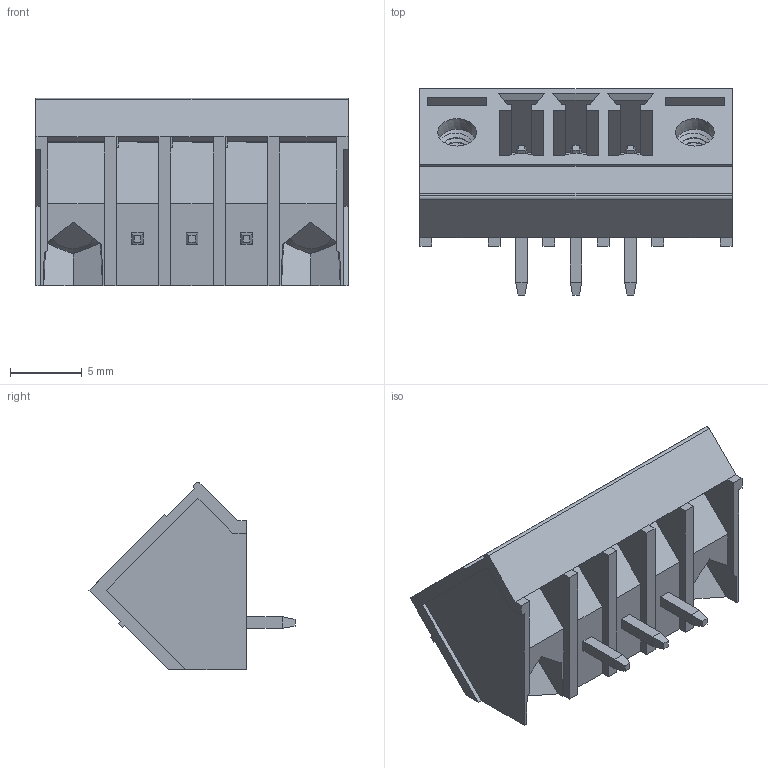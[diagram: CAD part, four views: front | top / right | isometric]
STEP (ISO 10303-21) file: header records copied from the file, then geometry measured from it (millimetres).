
FILE_DESCRIPTION((''),'2;1');
FILE_NAME('3PIN_SW0001','2019-05-10T',('zhenbing.lai'),(''),'CREO PARAMETRIC BY PTC INC, 2016260','CREO PARAMETRIC BY PTC INC, 2016260','');
FILE_SCHEMA(('CONFIG_CONTROL_DESIGN'));
Length unit declared in the file: millimetre
Products named in the file (1): 3PIN_SW0001
Bounding box: 21.82 x 14.4 x 13.1 mm (x, y, z)
Volume: 1223 mm3; surface area: 2219.2 mm2
Topology: 1 solids, 1 shells, 320 faces, 856 edges, 549 vertices
Faces by surface type: plane 246, cylinder 43, cone 19, bspline 12
Entity records: 17452 total; most frequent: CARTESIAN_POINT 9712, ORIENTED_EDGE 1704, DIRECTION 1387, EDGE_CURVE 852, VECTOR 693, LINE 693, VERTEX_POINT 549, AXIS2_PLACEMENT_3D 347
